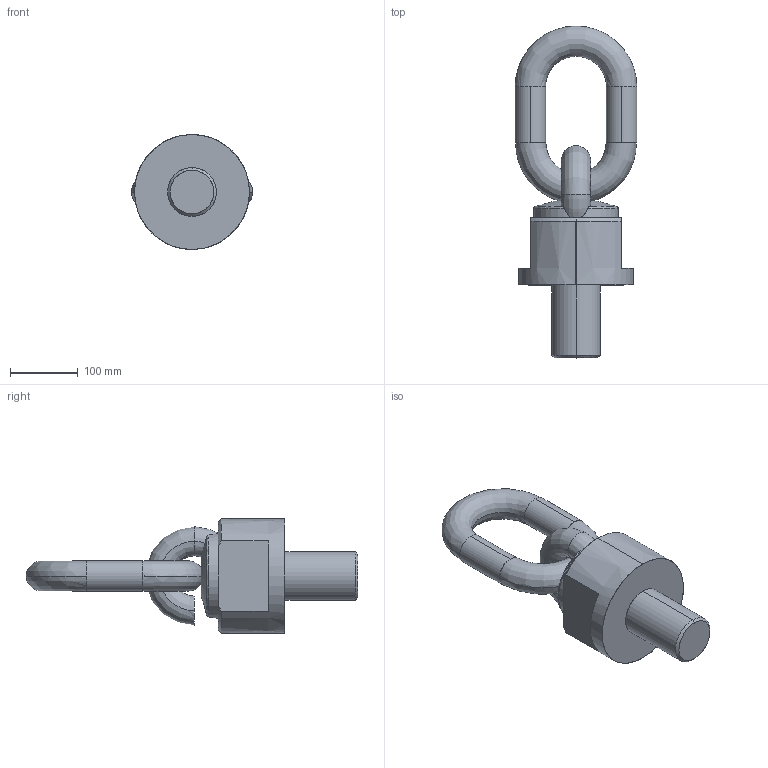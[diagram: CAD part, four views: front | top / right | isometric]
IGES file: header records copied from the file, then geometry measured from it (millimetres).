
Start section: START RECORD GO HERE.
Global section: file name: C80025072108.igs; native system: DASSAULT SYSTEMES CATIA V5 R20 - www.3ds.com; preprocessor: CATIA Version 5 Release 20 ; author: Utente; organization: NB04-ASUS; date: 20200412.160712; units: millimetre
Bounding box: 180 x 491 x 170 mm (x, y, z)
Surface area: 227917.8 mm2 (no closed solid volume)
Topology: 0 solids, 0 shells, 42 faces, 233 edges, 233 vertices
Faces by surface type: revolution 30, extrusion 12
